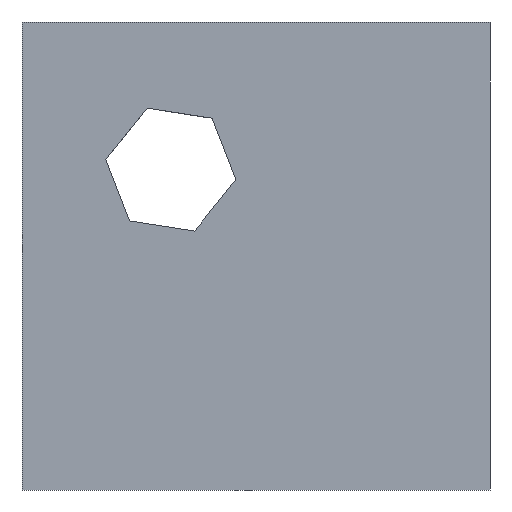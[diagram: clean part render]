
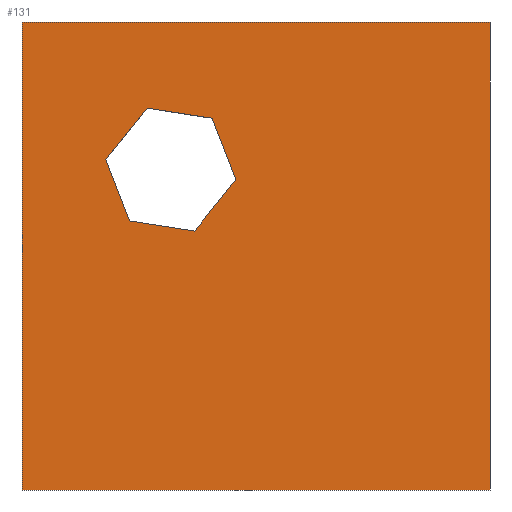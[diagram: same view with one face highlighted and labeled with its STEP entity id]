
A CAD part, front view. The second image highlights one B-rep face of the part: STEP entity #131.
In plain terms, the highlighted planar face has unit normal (0, -1, 0).
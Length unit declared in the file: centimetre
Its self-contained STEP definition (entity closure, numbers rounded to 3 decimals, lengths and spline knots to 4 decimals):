
#1 = VERTEX_POINT ( 'NONE', #514 ) ;
#14 = ORIENTED_EDGE ( 'NONE', *, *, #450, .F. ) ;
#25 = PLANE ( 'NONE',  #477 ) ;
#35 = EDGE_CURVE ( 'NONE', #197, #144, #569, .T. ) ;
#53 = ORIENTED_EDGE ( 'NONE', *, *, #283, .F. ) ;
#54 = LINE ( 'NONE', #215, #213 ) ;
#57 = VECTOR ( 'NONE', #127, 100. ) ;
#58 = VERTEX_POINT ( 'NONE', #124 ) ;
#60 = LINE ( 'NONE', #306, #432 ) ;
#68 = VECTOR ( 'NONE', #400, 100. ) ;
#73 = CARTESIAN_POINT ( 'NONE',  ( 0., 0., 0. ) ) ;
#92 = EDGE_CURVE ( 'NONE', #496, #115, #406, .T. ) ;
#95 = DIRECTION ( 'NONE',  ( -0.627, 0., -0.779 ) ) ;
#111 = ORIENTED_EDGE ( 'NONE', *, *, #92, .F. ) ;
#115 = VERTEX_POINT ( 'NONE', #320 ) ;
#118 = CARTESIAN_POINT ( 'NONE',  ( 178.784, 0., 706.2904 ) ) ;
#124 = CARTESIAN_POINT ( 'NONE',  ( 368.642, 0., 553.3036 ) ) ;
#127 = DIRECTION ( 'NONE',  ( 0.361, 0., -0.933 ) ) ;
#130 = DIRECTION ( 'NONE',  ( 1., 0., 0. ) ) ;
#131 = ADVANCED_FACE ( 'NONE', ( #274, #462 ), #25, .F. ) ;
#135 = EDGE_LOOP ( 'NONE', ( #147, #53, #252, #539 ) ) ;
#143 = EDGE_CURVE ( 'NONE', #115, #58, #169, .T. ) ;
#144 = VERTEX_POINT ( 'NONE', #609 ) ;
#147 = ORIENTED_EDGE ( 'NONE', *, *, #349, .T. ) ;
#149 = VERTEX_POINT ( 'NONE', #367 ) ;
#151 = EDGE_LOOP ( 'NONE', ( #216, #14, #589, #285, #111, #630 ) ) ;
#155 = CARTESIAN_POINT ( 'NONE',  ( 1000., 0., 1000. ) ) ;
#156 = CARTESIAN_POINT ( 'NONE',  ( 1000., 0., 1000. ) ) ;
#169 = LINE ( 'NONE', #411, #501 ) ;
#171 = DIRECTION ( 'NONE',  ( 0., 0., 1. ) ) ;
#179 = LINE ( 'NONE', #369, #224 ) ;
#193 = CARTESIAN_POINT ( 'NONE',  ( 0., 0., 1000. ) ) ;
#197 = VERTEX_POINT ( 'NONE', #193 ) ;
#206 = EDGE_CURVE ( 'NONE', #197, #392, #54, .T. ) ;
#213 = VECTOR ( 'NONE', #404, 100. ) ;
#215 = CARTESIAN_POINT ( 'NONE',  ( 0., 0., 1000. ) ) ;
#216 = ORIENTED_EDGE ( 'NONE', *, *, #386, .F. ) ;
#223 = CARTESIAN_POINT ( 'NONE',  ( 0., 0., 1000. ) ) ;
#224 = VECTOR ( 'NONE', #565, 100. ) ;
#252 = ORIENTED_EDGE ( 'NONE', *, *, #206, .F. ) ;
#274 = FACE_BOUND ( 'NONE', #151, .T. ) ;
#283 = EDGE_CURVE ( 'NONE', #392, #1, #591, .T. ) ;
#285 = ORIENTED_EDGE ( 'NONE', *, *, #143, .F. ) ;
#306 = CARTESIAN_POINT ( 'NONE',  ( 406.2034, 0., 794.2188 ) ) ;
#311 = VECTOR ( 'NONE', #332, 100. ) ;
#320 = CARTESIAN_POINT ( 'NONE',  ( 229.5495, 0., 574.9897 ) ) ;
#323 = LINE ( 'NONE', #73, #457 ) ;
#332 = DIRECTION ( 'NONE',  ( 0., 0., -1. ) ) ;
#349 = EDGE_CURVE ( 'NONE', #144, #1, #323, .T. ) ;
#355 = DIRECTION ( 'NONE',  ( -0.988, 0., 0.154 ) ) ;
#364 = DIRECTION ( 'NONE',  ( 0.988, 0., -0.154 ) ) ;
#367 = CARTESIAN_POINT ( 'NONE',  ( 456.9689, 0., 662.9182 ) ) ;
#369 = CARTESIAN_POINT ( 'NONE',  ( 368.642, 0., 553.3036 ) ) ;
#375 = DIRECTION ( 'NONE',  ( -0.361, 0., 0.933 ) ) ;
#386 = EDGE_CURVE ( 'NONE', #590, #494, #60, .T. ) ;
#388 = CARTESIAN_POINT ( 'NONE',  ( 456.9689, 0., 662.9182 ) ) ;
#392 = VERTEX_POINT ( 'NONE', #156 ) ;
#400 = DIRECTION ( 'NONE',  ( 0., 0., -1. ) ) ;
#404 = DIRECTION ( 'NONE',  ( 1., 0., 0. ) ) ;
#406 = LINE ( 'NONE', #118, #57 ) ;
#409 = DIRECTION ( 'NONE',  ( 0., 1., 0. ) ) ;
#411 = CARTESIAN_POINT ( 'NONE',  ( 229.5495, 0., 574.9897 ) ) ;
#432 = VECTOR ( 'NONE', #355, 100. ) ;
#450 = EDGE_CURVE ( 'NONE', #149, #590, #621, .T. ) ;
#457 = VECTOR ( 'NONE', #130, 100. ) ;
#462 = FACE_OUTER_BOUND ( 'NONE', #135, .T. ) ;
#477 = AXIS2_PLACEMENT_3D ( 'NONE', #223, #409, #171 ) ;
#494 = VERTEX_POINT ( 'NONE', #576 ) ;
#496 = VERTEX_POINT ( 'NONE', #570 ) ;
#501 = VECTOR ( 'NONE', #364, 100. ) ;
#514 = CARTESIAN_POINT ( 'NONE',  ( 1000., 0., 0. ) ) ;
#520 = CARTESIAN_POINT ( 'NONE',  ( 267.1109, 0., 815.9049 ) ) ;
#526 = LINE ( 'NONE', #520, #612 ) ;
#539 = ORIENTED_EDGE ( 'NONE', *, *, #35, .T. ) ;
#565 = DIRECTION ( 'NONE',  ( 0.627, 0., 0.779 ) ) ;
#568 = EDGE_CURVE ( 'NONE', #494, #496, #526, .T. ) ;
#569 = LINE ( 'NONE', #624, #311 ) ;
#570 = CARTESIAN_POINT ( 'NONE',  ( 178.784, 0., 706.2904 ) ) ;
#576 = CARTESIAN_POINT ( 'NONE',  ( 267.1109, 0., 815.9049 ) ) ;
#589 = ORIENTED_EDGE ( 'NONE', *, *, #606, .F. ) ;
#590 = VERTEX_POINT ( 'NONE', #631 ) ;
#591 = LINE ( 'NONE', #155, #68 ) ;
#604 = VECTOR ( 'NONE', #375, 100. ) ;
#606 = EDGE_CURVE ( 'NONE', #58, #149, #179, .T. ) ;
#609 = CARTESIAN_POINT ( 'NONE',  ( 0., 0., 0. ) ) ;
#612 = VECTOR ( 'NONE', #95, 100. ) ;
#621 = LINE ( 'NONE', #388, #604 ) ;
#624 = CARTESIAN_POINT ( 'NONE',  ( 0., 0., 1000. ) ) ;
#630 = ORIENTED_EDGE ( 'NONE', *, *, #568, .F. ) ;
#631 = CARTESIAN_POINT ( 'NONE',  ( 406.2034, 0., 794.2188 ) ) ;
